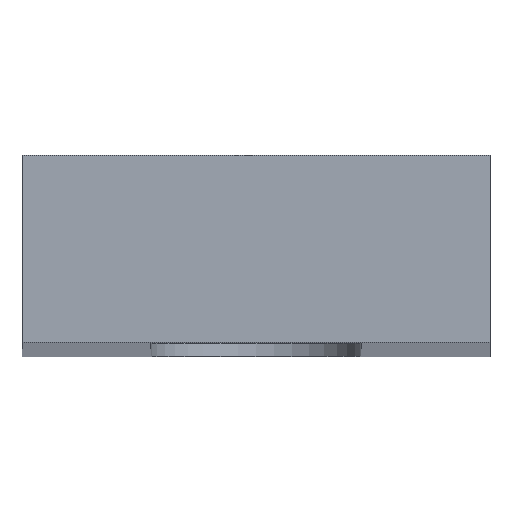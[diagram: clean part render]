
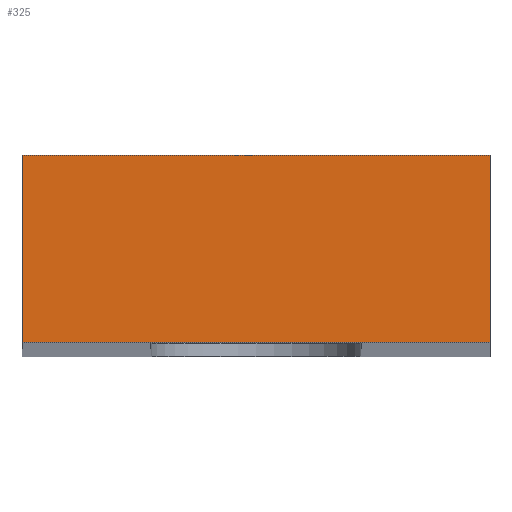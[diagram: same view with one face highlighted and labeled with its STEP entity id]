
A CAD part, top view. The second image highlights one B-rep face of the part: STEP entity #325.
In plain terms, the highlighted planar face has unit normal (0, 0, 1).
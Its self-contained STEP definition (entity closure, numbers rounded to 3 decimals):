
#24 = VERTEX_POINT('',#25);
#25 = CARTESIAN_POINT('',(35.,-28.,90.));
#32 = PLANE('',#33);
#33 = AXIS2_PLACEMENT_3D('',#34,#35,#36);
#34 = CARTESIAN_POINT('',(35.,-28.,-90.));
#35 = DIRECTION('',(1.,0.,0.));
#36 = DIRECTION('',(0.,0.,1.));
#44 = PLANE('',#45);
#45 = AXIS2_PLACEMENT_3D('',#46,#47,#48);
#46 = CARTESIAN_POINT('',(35.,-28.,-90.));
#47 = DIRECTION('',(0.,1.,0.));
#48 = DIRECTION('',(0.,0.,1.));
#85 = VERTEX_POINT('',#86);
#86 = CARTESIAN_POINT('',(35.,-24.,90.));
#100 = PLANE('',#101);
#101 = AXIS2_PLACEMENT_3D('',#102,#103,#104);
#102 = CARTESIAN_POINT('',(35.,-24.,-90.));
#103 = DIRECTION('',(0.,1.,0.));
#104 = DIRECTION('',(0.,0.,1.));
#112 = EDGE_CURVE('',#24,#85,#113,.T.);
#113 = SURFACE_CURVE('',#114,(#118,#125),.PCURVE_S1.);
#114 = LINE('',#115,#116);
#115 = CARTESIAN_POINT('',(35.,-28.,90.));
#116 = VECTOR('',#117,1.);
#117 = DIRECTION('',(0.,1.,0.));
#118 = PCURVE('',#32,#119);
#119 = DEFINITIONAL_REPRESENTATION('',(#120),#124);
#120 = LINE('',#121,#122);
#121 = CARTESIAN_POINT('',(180.,0.));
#122 = VECTOR('',#123,1.);
#123 = DIRECTION('',(0.,-1.));
#124 = ( GEOMETRIC_REPRESENTATION_CONTEXT(2)
PARAMETRIC_REPRESENTATION_CONTEXT() REPRESENTATION_CONTEXT('2D SPACE',''
  ) );
#125 = PCURVE('',#126,#131);
#126 = PLANE('',#127);
#127 = AXIS2_PLACEMENT_3D('',#128,#129,#130);
#128 = CARTESIAN_POINT('',(35.,-28.,90.));
#129 = DIRECTION('',(0.,0.,1.));
#130 = DIRECTION('',(1.,0.,0.));
#131 = DEFINITIONAL_REPRESENTATION('',(#132),#136);
#132 = LINE('',#133,#134);
#133 = CARTESIAN_POINT('',(0.,0.));
#134 = VECTOR('',#135,1.);
#135 = DIRECTION('',(0.,1.));
#136 = ( GEOMETRIC_REPRESENTATION_CONTEXT(2)
PARAMETRIC_REPRESENTATION_CONTEXT() REPRESENTATION_CONTEXT('2D SPACE',''
  ) );
#165 = EDGE_CURVE('',#24,#166,#168,.T.);
#166 = VERTEX_POINT('',#167);
#167 = CARTESIAN_POINT('',(45.,-28.,90.));
#168 = SURFACE_CURVE('',#169,(#173,#180),.PCURVE_S1.);
#169 = LINE('',#170,#171);
#170 = CARTESIAN_POINT('',(35.,-28.,90.));
#171 = VECTOR('',#172,1.);
#172 = DIRECTION('',(1.,0.,0.));
#173 = PCURVE('',#44,#174);
#174 = DEFINITIONAL_REPRESENTATION('',(#175),#179);
#175 = LINE('',#176,#177);
#176 = CARTESIAN_POINT('',(180.,0.));
#177 = VECTOR('',#178,1.);
#178 = DIRECTION('',(0.,1.));
#179 = ( GEOMETRIC_REPRESENTATION_CONTEXT(2)
PARAMETRIC_REPRESENTATION_CONTEXT() REPRESENTATION_CONTEXT('2D SPACE',''
  ) );
#180 = PCURVE('',#126,#181);
#181 = DEFINITIONAL_REPRESENTATION('',(#182),#186);
#182 = LINE('',#183,#184);
#183 = CARTESIAN_POINT('',(0.,0.));
#184 = VECTOR('',#185,1.);
#185 = DIRECTION('',(1.,0.));
#186 = ( GEOMETRIC_REPRESENTATION_CONTEXT(2)
PARAMETRIC_REPRESENTATION_CONTEXT() REPRESENTATION_CONTEXT('2D SPACE',''
  ) );
#202 = PLANE('',#203);
#203 = AXIS2_PLACEMENT_3D('',#204,#205,#206);
#204 = CARTESIAN_POINT('',(45.,-28.,-90.));
#205 = DIRECTION('',(1.,0.,0.));
#206 = DIRECTION('',(0.,0.,1.));
#325 = ADVANCED_FACE('',(#326),#126,.T.);
#326 = FACE_BOUND('',#327,.T.);
#327 = EDGE_LOOP('',(#328,#329,#330,#353));
#328 = ORIENTED_EDGE('',*,*,#112,.F.);
#329 = ORIENTED_EDGE('',*,*,#165,.T.);
#330 = ORIENTED_EDGE('',*,*,#331,.T.);
#331 = EDGE_CURVE('',#166,#332,#334,.T.);
#332 = VERTEX_POINT('',#333);
#333 = CARTESIAN_POINT('',(45.,-24.,90.));
#334 = SURFACE_CURVE('',#335,(#339,#346),.PCURVE_S1.);
#335 = LINE('',#336,#337);
#336 = CARTESIAN_POINT('',(45.,-28.,90.));
#337 = VECTOR('',#338,1.);
#338 = DIRECTION('',(0.,1.,0.));
#339 = PCURVE('',#126,#340);
#340 = DEFINITIONAL_REPRESENTATION('',(#341),#345);
#341 = LINE('',#342,#343);
#342 = CARTESIAN_POINT('',(10.,0.));
#343 = VECTOR('',#344,1.);
#344 = DIRECTION('',(0.,1.));
#345 = ( GEOMETRIC_REPRESENTATION_CONTEXT(2)
PARAMETRIC_REPRESENTATION_CONTEXT() REPRESENTATION_CONTEXT('2D SPACE',''
  ) );
#346 = PCURVE('',#202,#347);
#347 = DEFINITIONAL_REPRESENTATION('',(#348),#352);
#348 = LINE('',#349,#350);
#349 = CARTESIAN_POINT('',(180.,0.));
#350 = VECTOR('',#351,1.);
#351 = DIRECTION('',(0.,-1.));
#352 = ( GEOMETRIC_REPRESENTATION_CONTEXT(2)
PARAMETRIC_REPRESENTATION_CONTEXT() REPRESENTATION_CONTEXT('2D SPACE',''
  ) );
#353 = ORIENTED_EDGE('',*,*,#354,.F.);
#354 = EDGE_CURVE('',#85,#332,#355,.T.);
#355 = SURFACE_CURVE('',#356,(#360,#367),.PCURVE_S1.);
#356 = LINE('',#357,#358);
#357 = CARTESIAN_POINT('',(35.,-24.,90.));
#358 = VECTOR('',#359,1.);
#359 = DIRECTION('',(1.,0.,0.));
#360 = PCURVE('',#126,#361);
#361 = DEFINITIONAL_REPRESENTATION('',(#362),#366);
#362 = LINE('',#363,#364);
#363 = CARTESIAN_POINT('',(0.,4.));
#364 = VECTOR('',#365,1.);
#365 = DIRECTION('',(1.,0.));
#366 = ( GEOMETRIC_REPRESENTATION_CONTEXT(2)
PARAMETRIC_REPRESENTATION_CONTEXT() REPRESENTATION_CONTEXT('2D SPACE',''
  ) );
#367 = PCURVE('',#100,#368);
#368 = DEFINITIONAL_REPRESENTATION('',(#369),#373);
#369 = LINE('',#370,#371);
#370 = CARTESIAN_POINT('',(180.,0.));
#371 = VECTOR('',#372,1.);
#372 = DIRECTION('',(0.,1.));
#373 = ( GEOMETRIC_REPRESENTATION_CONTEXT(2)
PARAMETRIC_REPRESENTATION_CONTEXT() REPRESENTATION_CONTEXT('2D SPACE',''
  ) );
